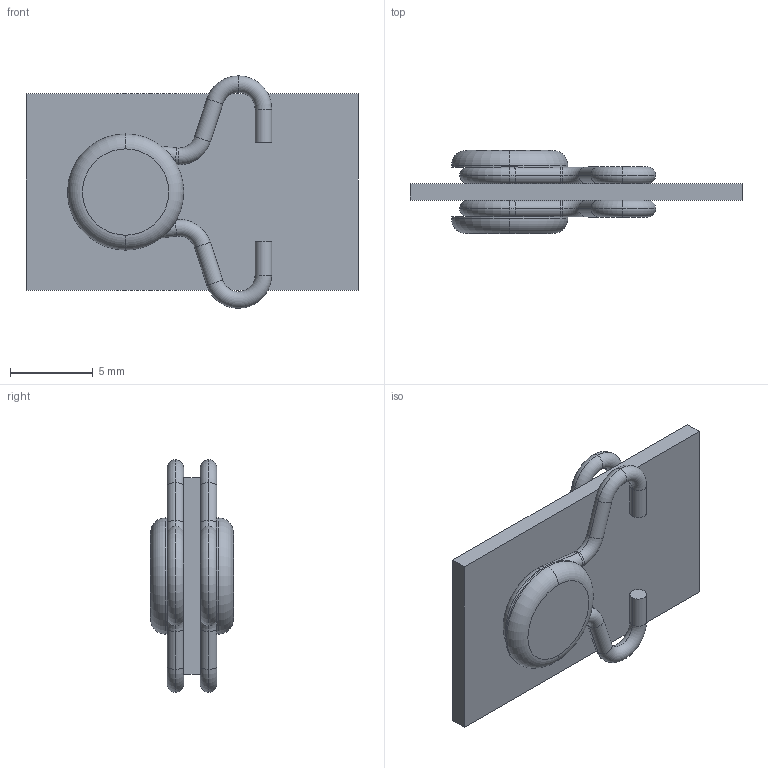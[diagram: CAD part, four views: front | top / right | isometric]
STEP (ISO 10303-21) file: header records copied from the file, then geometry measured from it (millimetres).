
FILE_DESCRIPTION (( 'STEP AP203' ), '1' );
FILE_NAME ('RLA-12x20.STEP', '2015-12-10T15:58:01', ( 'Balzi' ), ( '' ), 'SwSTEP 2.0', 'SolidWorks 2015', '' );
FILE_SCHEMA (( 'CONFIG_CONTROL_DESIGN' ));
Length unit declared in the file: millimetre
Products named in the file (1): RLA-12x20
Bounding box: 20 x 5 x 13.99 mm (x, y, z)
Volume: 350.3 mm3; surface area: 931.5 mm2
Topology: 5 solids, 5 shells, 84 faces, 162 edges, 88 vertices
Faces by surface type: torus 40, cylinder 30, plane 14
Entity records: 2199 total; most frequent: DIRECTION 452, CARTESIAN_POINT 335, ORIENTED_EDGE 324, AXIS2_PLACEMENT_3D 205, EDGE_CURVE 162, CIRCLE 120, VERTEX_POINT 88, EDGE_LOOP 86
